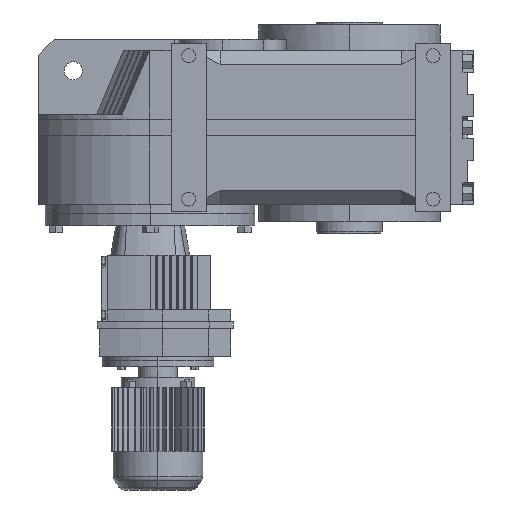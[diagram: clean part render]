
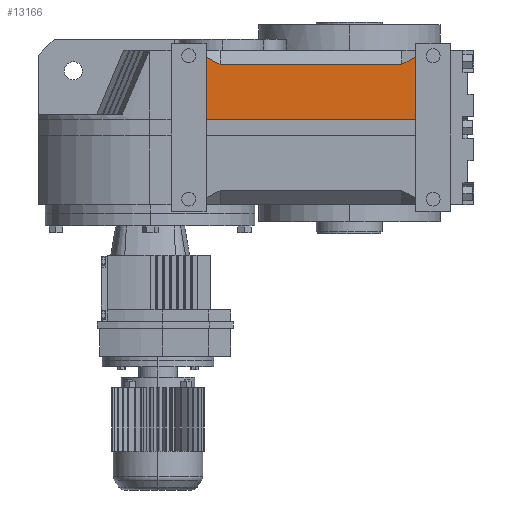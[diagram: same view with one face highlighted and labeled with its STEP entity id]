
A CAD part, left-side view. The second image highlights one B-rep face of the part: STEP entity #13166.
In plain terms, the highlighted planar face has unit normal (-1, 0, 0).
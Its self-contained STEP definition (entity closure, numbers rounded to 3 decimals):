
#363 = PLANE('',#364);
#364 = AXIS2_PLACEMENT_3D('',#365,#366,#367);
#365 = CARTESIAN_POINT('',(-162.4,-80.,3.));
#366 = DIRECTION('',(0.,-1.,0.));
#367 = DIRECTION('',(0.,0.,-1.));
#391 = PLANE('',#392);
#392 = AXIS2_PLACEMENT_3D('',#393,#394,#395);
#393 = CARTESIAN_POINT('',(-286.747,-80.,127.347));
#394 = DIRECTION('',(-0.664,-0.342,0.664));
#395 = DIRECTION('',(0.707,0.,0.707)
  );
#419 = PLANE('',#420);
#420 = AXIS2_PLACEMENT_3D('',#421,#422,#423);
#421 = CARTESIAN_POINT('',(-170.4,1.,233.4));
#422 = DIRECTION('',(-0.707,0.,0.707));
#423 = DIRECTION('',(0.707,0.,0.707));
#447 = PLANE('',#448);
#448 = AXIS2_PLACEMENT_3D('',#449,#450,#451);
#449 = CARTESIAN_POINT('',(-286.747,-380.,127.347));
#450 = DIRECTION('',(-0.664,0.342,0.664));
#451 = DIRECTION('',(0.707,0.,0.707)
  );
#475 = PLANE('',#476);
#476 = AXIS2_PLACEMENT_3D('',#477,#478,#479);
#477 = CARTESIAN_POINT('',(-162.4,-380.,3.));
#478 = DIRECTION('',(0.,1.,0.));
#479 = DIRECTION('',(0.,0.,1.));
#4382 = VERTEX_POINT('',#4383);
#4383 = CARTESIAN_POINT('',(-190.4,-380.,223.695));
#4404 = EDGE_CURVE('',#4405,#4382,#4407,.T.);
#4405 = VERTEX_POINT('',#4406);
#4406 = CARTESIAN_POINT('',(-190.4,-380.,135.));
#4407 = SURFACE_CURVE('',#4408,(#4412,#4419),.PCURVE_S1.);
#4408 = LINE('',#4409,#4410);
#4409 = CARTESIAN_POINT('',(-190.4,-380.,233.4));
#4410 = VECTOR('',#4411,1.);
#4411 = DIRECTION('',(0.,0.,1.));
#4412 = PCURVE('',#475,#4413);
#4413 = DEFINITIONAL_REPRESENTATION('',(#4414),#4418);
#4414 = LINE('',#4415,#4416);
#4415 = CARTESIAN_POINT('',(230.4,-28.));
#4416 = VECTOR('',#4417,1.);
#4417 = DIRECTION('',(1.,0.));
#4418 = ( GEOMETRIC_REPRESENTATION_CONTEXT(2) 
PARAMETRIC_REPRESENTATION_CONTEXT() REPRESENTATION_CONTEXT('2D SPACE',''
  ) );
#4419 = PCURVE('',#4420,#4425);
#4420 = PLANE('',#4421);
#4421 = AXIS2_PLACEMENT_3D('',#4422,#4423,#4424);
#4422 = CARTESIAN_POINT('',(-190.4,-463.,233.4));
#4423 = DIRECTION('',(1.,0.,0.));
#4424 = DIRECTION('',(0.,0.,-1.));
#4425 = DEFINITIONAL_REPRESENTATION('',(#4426),#4430);
#4426 = LINE('',#4427,#4428);
#4427 = CARTESIAN_POINT('',(0.,83.));
#4428 = VECTOR('',#4429,1.);
#4429 = DIRECTION('',(-1.,0.));
#4430 = ( GEOMETRIC_REPRESENTATION_CONTEXT(2) 
PARAMETRIC_REPRESENTATION_CONTEXT() REPRESENTATION_CONTEXT('2D SPACE',''
  ) );
#4448 = PLANE('',#4449);
#4449 = AXIS2_PLACEMENT_3D('',#4450,#4451,#4452);
#4450 = CARTESIAN_POINT('',(-14.299,1.,135.));
#4451 = DIRECTION('',(0.,0.,-1.));
#4452 = DIRECTION('',(-1.,0.,0.));
#5299 = VERTEX_POINT('',#5300);
#5300 = CARTESIAN_POINT('',(-190.4,-100.,213.4));
#5321 = EDGE_CURVE('',#5322,#5299,#5324,.T.);
#5322 = VERTEX_POINT('',#5323);
#5323 = CARTESIAN_POINT('',(-190.4,-360.,213.4));
#5324 = SURFACE_CURVE('',#5325,(#5329,#5336),.PCURVE_S1.);
#5325 = LINE('',#5326,#5327);
#5326 = CARTESIAN_POINT('',(-190.4,-80.,213.4));
#5327 = VECTOR('',#5328,1.);
#5328 = DIRECTION('',(0.,1.,0.));
#5329 = PCURVE('',#419,#5330);
#5330 = DEFINITIONAL_REPRESENTATION('',(#5331),#5335);
#5331 = LINE('',#5332,#5333);
#5332 = CARTESIAN_POINT('',(-28.284,-81.));
#5333 = VECTOR('',#5334,1.);
#5334 = DIRECTION('',(0.,1.));
#5335 = ( GEOMETRIC_REPRESENTATION_CONTEXT(2) 
PARAMETRIC_REPRESENTATION_CONTEXT() REPRESENTATION_CONTEXT('2D SPACE',''
  ) );
#5336 = PCURVE('',#4420,#5337);
#5337 = DEFINITIONAL_REPRESENTATION('',(#5338),#5342);
#5338 = LINE('',#5339,#5340);
#5339 = CARTESIAN_POINT('',(20.,383.));
#5340 = VECTOR('',#5341,1.);
#5341 = DIRECTION('',(0.,1.));
#5342 = ( GEOMETRIC_REPRESENTATION_CONTEXT(2) 
PARAMETRIC_REPRESENTATION_CONTEXT() REPRESENTATION_CONTEXT('2D SPACE',''
  ) );
#7068 = EDGE_CURVE('',#4382,#5322,#7069,.T.);
#7069 = SURFACE_CURVE('',#7070,(#7074,#7081),.PCURVE_S1.);
#7070 = LINE('',#7071,#7072);
#7071 = CARTESIAN_POINT('',(-190.4,-449.565,259.502));
#7072 = VECTOR('',#7073,1.);
#7073 = DIRECTION('',(0.,0.889,-0.458));
#7074 = PCURVE('',#447,#7075);
#7075 = DEFINITIONAL_REPRESENTATION('',(#7076),#7080);
#7076 = LINE('',#7077,#7078);
#7077 = CARTESIAN_POINT('',(161.575,-74.029));
#7078 = VECTOR('',#7079,1.);
#7079 = DIRECTION('',(-0.324,0.946));
#7080 = ( GEOMETRIC_REPRESENTATION_CONTEXT(2) 
PARAMETRIC_REPRESENTATION_CONTEXT() REPRESENTATION_CONTEXT('2D SPACE',''
  ) );
#7081 = PCURVE('',#4420,#7082);
#7082 = DEFINITIONAL_REPRESENTATION('',(#7083),#7087);
#7083 = LINE('',#7084,#7085);
#7084 = CARTESIAN_POINT('',(-26.102,13.435));
#7085 = VECTOR('',#7086,1.);
#7086 = DIRECTION('',(0.458,0.889));
#7087 = ( GEOMETRIC_REPRESENTATION_CONTEXT(2) 
PARAMETRIC_REPRESENTATION_CONTEXT() REPRESENTATION_CONTEXT('2D SPACE',''
  ) );
#9852 = EDGE_CURVE('',#5299,#9853,#9855,.T.);
#9853 = VERTEX_POINT('',#9854);
#9854 = CARTESIAN_POINT('',(-190.4,-80.,223.695));
#9855 = SURFACE_CURVE('',#9856,(#9860,#9867),.PCURVE_S1.);
#9856 = LINE('',#9857,#9858);
#9857 = CARTESIAN_POINT('',(-190.4,-378.83,69.877));
#9858 = VECTOR('',#9859,1.);
#9859 = DIRECTION('',(0.,0.889,0.458));
#9860 = PCURVE('',#391,#9861);
#9861 = DEFINITIONAL_REPRESENTATION('',(#9862),#9866);
#9862 = LINE('',#9863,#9864);
#9863 = CARTESIAN_POINT('',(27.491,-318.008));
#9864 = VECTOR('',#9865,1.);
#9865 = DIRECTION('',(0.324,0.946));
#9866 = ( GEOMETRIC_REPRESENTATION_CONTEXT(2) 
PARAMETRIC_REPRESENTATION_CONTEXT() REPRESENTATION_CONTEXT('2D SPACE',''
  ) );
#9867 = PCURVE('',#4420,#9868);
#9868 = DEFINITIONAL_REPRESENTATION('',(#9869),#9873);
#9869 = LINE('',#9870,#9871);
#9870 = CARTESIAN_POINT('',(163.523,84.17));
#9871 = VECTOR('',#9872,1.);
#9872 = DIRECTION('',(-0.458,0.889));
#9873 = ( GEOMETRIC_REPRESENTATION_CONTEXT(2) 
PARAMETRIC_REPRESENTATION_CONTEXT() REPRESENTATION_CONTEXT('2D SPACE',''
  ) );
#10130 = VERTEX_POINT('',#10131);
#10131 = CARTESIAN_POINT('',(-190.4,-80.,135.));
#10152 = EDGE_CURVE('',#9853,#10130,#10153,.T.);
#10153 = SURFACE_CURVE('',#10154,(#10158,#10165),.PCURVE_S1.);
#10154 = LINE('',#10155,#10156);
#10155 = CARTESIAN_POINT('',(-190.4,-80.,233.4));
#10156 = VECTOR('',#10157,1.);
#10157 = DIRECTION('',(0.,0.,-1.));
#10158 = PCURVE('',#363,#10159);
#10159 = DEFINITIONAL_REPRESENTATION('',(#10160),#10164);
#10160 = LINE('',#10161,#10162);
#10161 = CARTESIAN_POINT('',(-230.4,-28.));
#10162 = VECTOR('',#10163,1.);
#10163 = DIRECTION('',(1.,0.));
#10164 = ( GEOMETRIC_REPRESENTATION_CONTEXT(2) 
PARAMETRIC_REPRESENTATION_CONTEXT() REPRESENTATION_CONTEXT('2D SPACE',''
  ) );
#10165 = PCURVE('',#4420,#10166);
#10166 = DEFINITIONAL_REPRESENTATION('',(#10167),#10171);
#10167 = LINE('',#10168,#10169);
#10168 = CARTESIAN_POINT('',(0.,383.));
#10169 = VECTOR('',#10170,1.);
#10170 = DIRECTION('',(1.,0.));
#10171 = ( GEOMETRIC_REPRESENTATION_CONTEXT(2) 
PARAMETRIC_REPRESENTATION_CONTEXT() REPRESENTATION_CONTEXT('2D SPACE',''
  ) );
#13123 = EDGE_CURVE('',#4405,#10130,#13124,.T.);
#13124 = SURFACE_CURVE('',#13125,(#13129,#13136),.PCURVE_S1.);
#13125 = LINE('',#13126,#13127);
#13126 = CARTESIAN_POINT('',(-190.4,-463.,135.));
#13127 = VECTOR('',#13128,1.);
#13128 = DIRECTION('',(0.,1.,0.));
#13129 = PCURVE('',#4448,#13130);
#13130 = DEFINITIONAL_REPRESENTATION('',(#13131),#13135);
#13131 = LINE('',#13132,#13133);
#13132 = CARTESIAN_POINT('',(176.101,-464.));
#13133 = VECTOR('',#13134,1.);
#13134 = DIRECTION('',(0.,1.));
#13135 = ( GEOMETRIC_REPRESENTATION_CONTEXT(2) 
PARAMETRIC_REPRESENTATION_CONTEXT() REPRESENTATION_CONTEXT('2D SPACE',''
  ) );
#13136 = PCURVE('',#4420,#13137);
#13137 = DEFINITIONAL_REPRESENTATION('',(#13138),#13142);
#13138 = LINE('',#13139,#13140);
#13139 = CARTESIAN_POINT('',(98.4,0.));
#13140 = VECTOR('',#13141,1.);
#13141 = DIRECTION('',(0.,1.));
#13142 = ( GEOMETRIC_REPRESENTATION_CONTEXT(2) 
PARAMETRIC_REPRESENTATION_CONTEXT() REPRESENTATION_CONTEXT('2D SPACE',''
  ) );
#13166 = ADVANCED_FACE('',(#13167),#4420,.F.);
#13167 = FACE_BOUND('',#13168,.T.);
#13168 = EDGE_LOOP('',(#13169,#13170,#13171,#13172,#13173,#13174));
#13169 = ORIENTED_EDGE('',*,*,#4404,.T.);
#13170 = ORIENTED_EDGE('',*,*,#7068,.T.);
#13171 = ORIENTED_EDGE('',*,*,#5321,.T.);
#13172 = ORIENTED_EDGE('',*,*,#9852,.T.);
#13173 = ORIENTED_EDGE('',*,*,#10152,.T.);
#13174 = ORIENTED_EDGE('',*,*,#13123,.F.);
